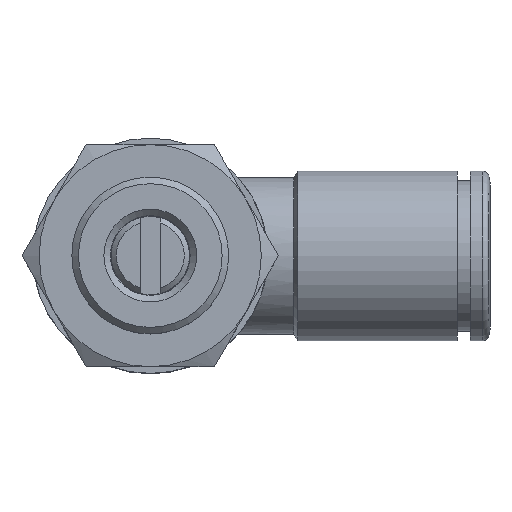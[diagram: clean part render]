
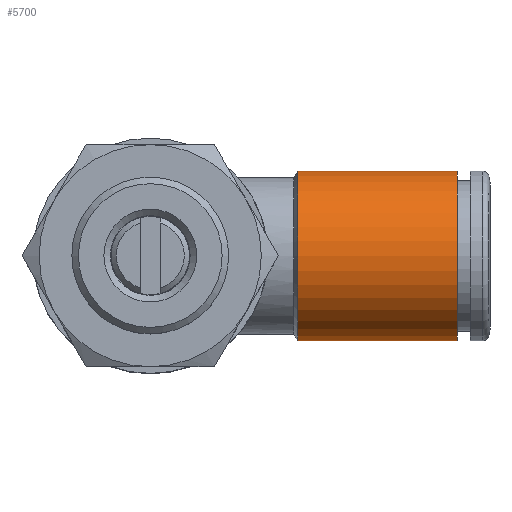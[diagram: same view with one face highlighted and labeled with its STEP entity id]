
A CAD part, top view. The second image highlights one B-rep face of the part: STEP entity #5700.
In plain terms, the highlighted cylindrical face has radius 6.5 mm (diameter 13 mm), a full revolution.
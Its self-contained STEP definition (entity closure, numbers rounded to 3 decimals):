
#5700=ADVANCED_FACE('', (#5710,#5720), #5730, .T.);
#16310=AXIS2_PLACEMENT_3D('Ax2Pl3d', #16320, #16330, #16340);
#17790=AXIS2_PLACEMENT_3D('Ax2Pl3d', #17800, #17810, #17820);
#17830=AXIS2_PLACEMENT_3D('Ax2Pl3d', #17840, #17850, #17860);
#16320=CARTESIAN_POINT('HicPkt', (46.673,22.353,
26.338));
#34000=CARTESIAN_POINT('', (46.673,22.353,32.838));
#17800=CARTESIAN_POINT('HicPkt', (34.461,22.353,
26.338));
#34190=CARTESIAN_POINT('', (34.461,22.353,32.838));
#17840=CARTESIAN_POINT('HicPkt', (34.461,22.353,
26.338));
#35410=CIRCLE('Circle', #16310, 6.5);
#35590=CIRCLE('Circle', #17790, 6.5);
#5730=CYLINDRICAL_SURFACE('Zyl', #17830, 6.5);
#16330=DIRECTION('Axis', (1.,0.,0.));
#16340=DIRECTION('RefDirection', (0.,-0.,-1.));
#17810=DIRECTION('Axis', (1.,0.,0.));
#17820=DIRECTION('RefDirection', (0.,-0.,-1.));
#17850=DIRECTION('Axis', (1.,0.,0.));
#17860=DIRECTION('RefDirection', (0.,0.,-1.));
#45540=EDGE_CURVE('', #45550, #45550, #35410, .T.);
#45930=EDGE_CURVE('', #45940, #45940, #35590, .T.);
#52350=EDGE_LOOP('Edge_loop', (#52360));
#52370=EDGE_LOOP('Edge_loop', (#52380));
#5720=FACE_BOUND('', #52370, .T.);
#5710=FACE_OUTER_BOUND('Face_outer_bound', #52350, .T.);
#52360=ORIENTED_EDGE('', *, *, #45540, .F.);
#52380=ORIENTED_EDGE('', *, *, #45930, .T.);
#45550=VERTEX_POINT('', #34000);
#45940=VERTEX_POINT('', #34190);
